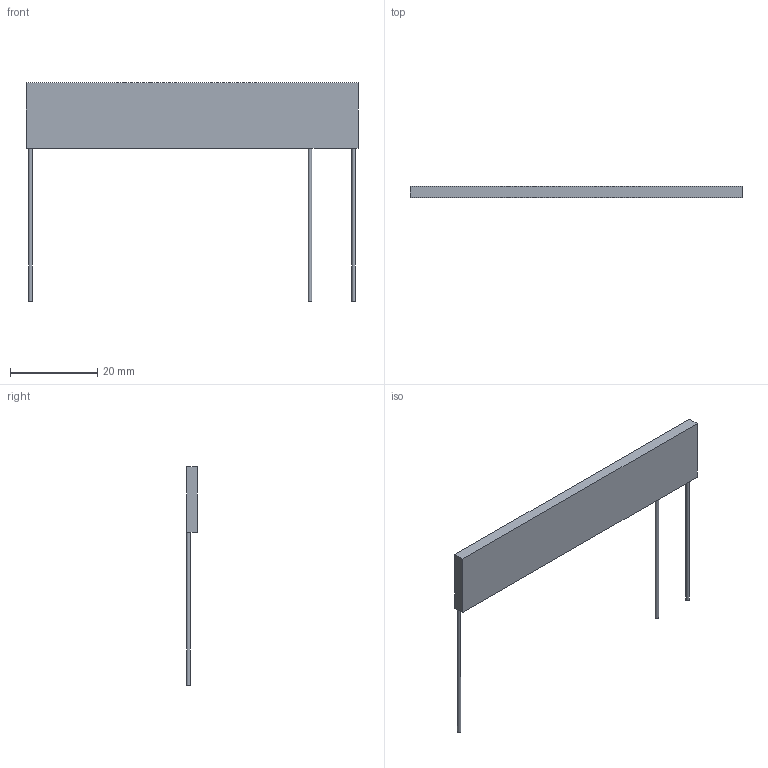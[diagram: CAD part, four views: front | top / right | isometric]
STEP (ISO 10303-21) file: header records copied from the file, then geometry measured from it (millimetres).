
FILE_DESCRIPTION(('STEP AP203'), '1');
FILE_NAME('NR1-77-2-5', '', ('UNSPECIFIED'), ('UNSPECIFIED'), 'ASCON STEP Converter 1.6', 'ASCON Math Kernel', '');
FILE_SCHEMA(('CONFIG_CONTROL_DESIGN'));
Length unit declared in the file: millimetre
Bounding box: 76 x 2.5 x 50 mm (x, y, z)
Volume: 2902.8 mm3; surface area: 2998.9 mm2
Topology: 1 solids, 1 shells, 12 faces, 27 edges, 17 vertices
Faces by surface type: plane 9, cylinder 3
Full cylindrical faces by diameter (mm): 0.8 x3
Entity records: 461 total; most frequent: DIRECTION 59, CARTESIAN_POINT 54, ORIENTED_EDGE 48, EDGE_CURVE 24, AXIS2_PLACEMENT_3D 22, VERTEX_POINT 17, EDGE_LOOP 15, LINE 15
